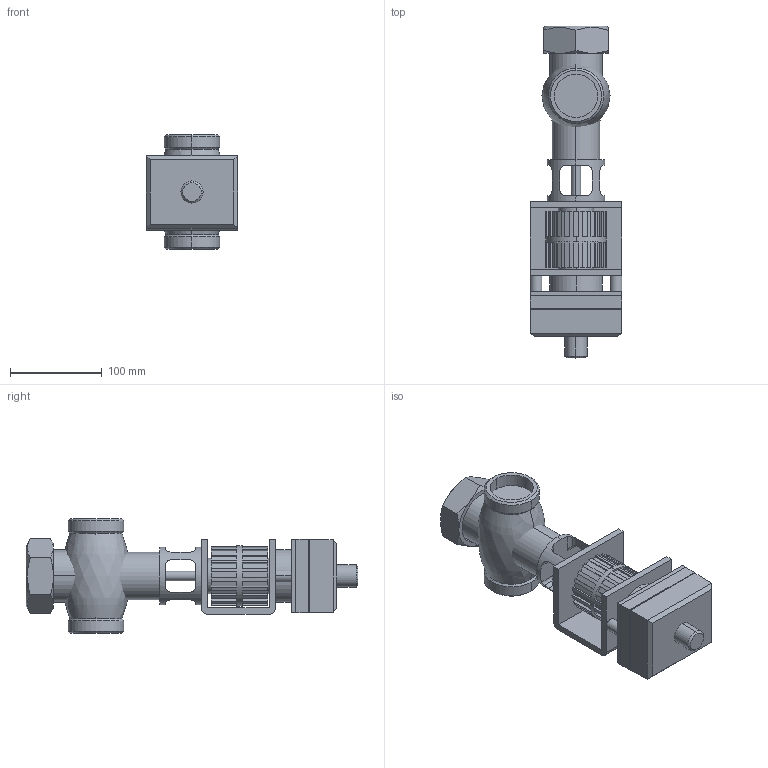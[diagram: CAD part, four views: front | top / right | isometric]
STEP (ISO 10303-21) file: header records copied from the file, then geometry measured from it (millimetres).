
FILE_DESCRIPTION((''),'2;1');
FILE_NAME('000283.stp','2006-10-04T15:54:02',(''),(''),'Mechanical Desktop 2006','Mechanical Desktop 2006',', , ');
FILE_SCHEMA(('AUTOMOTIVE_DESIGN { 1 2 10303 214 0 1 1 1 }'));
Length unit declared in the file: millimetre
Products named in the file (1): Product
Bounding box: 100 x 361 x 125 mm (x, y, z)
Volume: 1754122.3 mm3; surface area: 280404.2 mm2
Topology: 27 solids, 27 shells, 505 faces, 1313 edges, 860 vertices
Faces by surface type: plane 231, cylinder 146, bspline 120, cone 8
Entity records: 16106 total; most frequent: CARTESIAN_POINT 3773, ORIENTED_EDGE 2626, DIRECTION 2425, EDGE_CURVE 1313, VECTOR 877, LINE 877, VERTEX_POINT 860, AXIS2_PLACEMENT_3D 774
